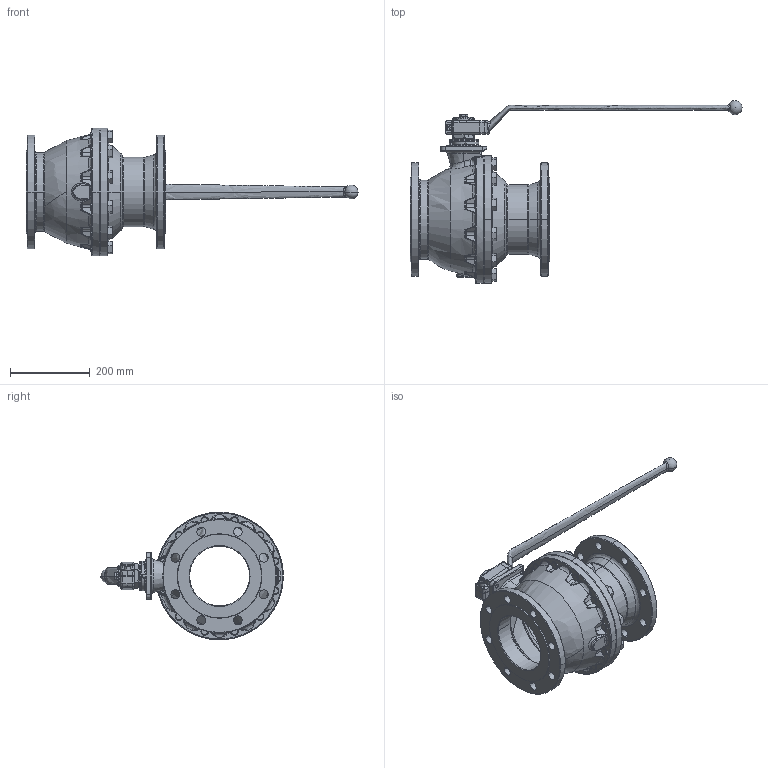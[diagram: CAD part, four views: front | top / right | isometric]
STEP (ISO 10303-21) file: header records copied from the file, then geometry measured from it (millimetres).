
FILE_DESCRIPTION (( 'STEP AP214' ), '1' );
FILE_NAME ('FIG 516 - DN150 con maneta.STEP', '2016-10-03T18:17:17', ( '' ), ( '' ), 'SwSTEP 2.0', 'SolidWorks 2016', '' );
FILE_SCHEMA (( 'AUTOMOTIVE_DESIGN' ));
Length unit declared in the file: millimetre
Products named in the file (18): DIN 6325 - Ø8x20; 0516150C; 5183_10-1; P150G (50x40x7)_Comprimida; EPI150Q; 200150_41; DIN 912 - M10 x 30_DIN 912 M10 x 30; 0516150L; 5183_07; 5183_17; 5183_08; 5283_46; 00830920; JT150FV (50x40x2); M150CHST; FIG 516 - DN150 con maneta; DIN 933 - M12 x 20_DIN 933 - M12 x 20; BOLT UNC 3_4-10x1.3_4_UNC 3_4-10x2.3_4
Assembly tree (31 placements, depth 2):
  FIG 516 - DN150 con maneta
    0516150C
    0516150L
    EPI150Q
    P150G (50x40x7)_Comprimida  x3
    5183_10-1
    JT150FV (50x40x2)
    00830920
    200150_41
    5183_08  x2
    5283_46
    5183_07
    M150CHST
    DIN 912 - M10 x 30_DIN 912 M10 x 30
    5183_17
    DIN 933 - M12 x 20_DIN 933 - M12 x 20
    DIN 6325 - Ø8x20
    BOLT UNC 3_4-10x1.3_4_UNC 3_4-10x2.3_4  x12
Bounding box: 832.5 x 458.18 x 320 mm (x, y, z)
Volume: 7089091.5 mm3; surface area: 1086827.5 mm2
Topology: 31 solids, 31 shells, 1314 faces, 3158 edges, 1860 vertices
Faces by surface type: cylinder 371, plane 361, bspline 318, cone 211, torus 43, sphere 10
Entity records: 71180 total; most frequent: CARTESIAN_POINT 49248, ORIENTED_EDGE 4756, DIRECTION 3835, EDGE_CURVE 2378, AXIS2_PLACEMENT_3D 1583, VERTEX_POINT 1459, EDGE_LOOP 1113, ADVANCED_FACE 975
